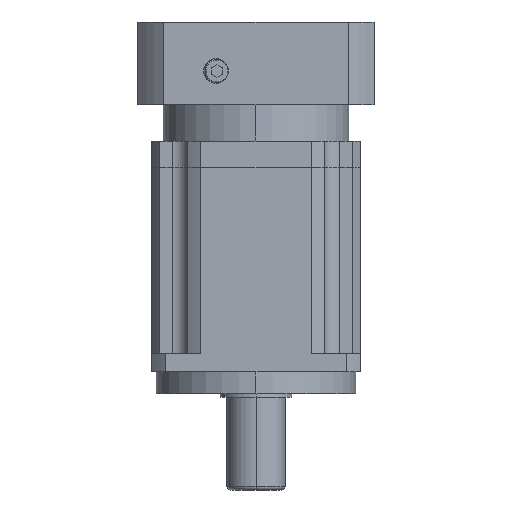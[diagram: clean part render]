
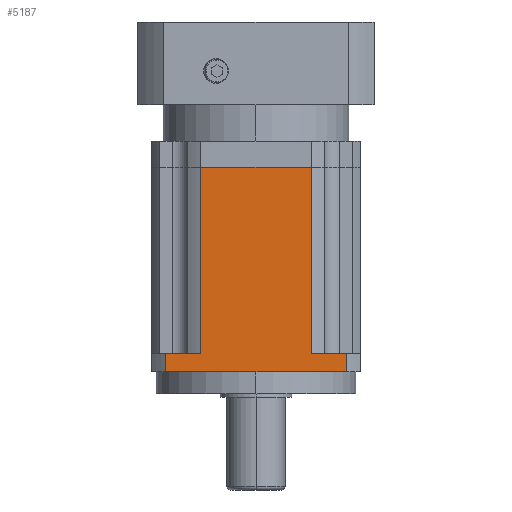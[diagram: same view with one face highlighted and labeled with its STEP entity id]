
A CAD part, left-side view. The second image highlights one B-rep face of the part: STEP entity #5187.
In plain terms, the highlighted planar face has unit normal (-1, 0, 0).
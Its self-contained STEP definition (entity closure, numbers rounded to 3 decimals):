
#65 = LINE ( 'NONE', #3188, #7861 ) ;
#213 = VECTOR ( 'NONE', #2178, 1000. ) ;
#348 = VERTEX_POINT ( 'NONE', #7490 ) ;
#956 = CARTESIAN_POINT ( 'NONE',  ( -57.5, 0., 22. ) ) ;
#1038 = CARTESIAN_POINT ( 'NONE',  ( -57.5, -49.697, 22. ) ) ;
#1093 = CARTESIAN_POINT ( 'NONE',  ( -57.5, 30.311, 124.5 ) ) ;
#1154 = PLANE ( 'NONE',  #1821 ) ;
#1203 = EDGE_CURVE ( 'NONE', #7192, #1212, #5909, .T. ) ;
#1212 = VERTEX_POINT ( 'NONE', #4473 ) ;
#1366 = CARTESIAN_POINT ( 'NONE',  ( -57.5, 0., 124.5 ) ) ;
#1565 = VERTEX_POINT ( 'NONE', #1093 ) ;
#1793 = CARTESIAN_POINT ( 'NONE',  ( -57.5, -30.311, 22. ) ) ;
#1821 = AXIS2_PLACEMENT_3D ( 'NONE', #5017, #9734, #1935 ) ;
#1847 = VECTOR ( 'NONE', #5251, 1000. ) ;
#1935 = DIRECTION ( 'NONE',  ( 0., 0., 1. ) ) ;
#2101 = LINE ( 'NONE', #7617, #1847 ) ;
#2134 = VECTOR ( 'NONE', #2297, 1000. ) ;
#2178 = DIRECTION ( 'NONE',  ( 0., 0., -1. ) ) ;
#2199 = VECTOR ( 'NONE', #8772, 1000. ) ;
#2297 = DIRECTION ( 'NONE',  ( 0., 0., -1. ) ) ;
#2549 = CARTESIAN_POINT ( 'NONE',  ( -57.5, 0., 22. ) ) ;
#2724 = EDGE_CURVE ( 'NONE', #8901, #4520, #65, .T. ) ;
#3027 = ORIENTED_EDGE ( 'NONE', *, *, #9559, .F. ) ;
#3188 = CARTESIAN_POINT ( 'NONE',  ( -57.5, -30.311, 124.501 ) ) ;
#3246 = EDGE_LOOP ( 'NONE', ( #4891, #6795, #8500, #7992, #9937, #3027, #6818, #3964 ) ) ;
#3459 = VECTOR ( 'NONE', #9584, 1000. ) ;
#3736 = CARTESIAN_POINT ( 'NONE',  ( -57.5, -30.311, 124.5 ) ) ;
#3964 = ORIENTED_EDGE ( 'NONE', *, *, #2724, .F. ) ;
#4255 = LINE ( 'NONE', #956, #2199 ) ;
#4392 = VECTOR ( 'NONE', #6063, 1000. ) ;
#4473 = CARTESIAN_POINT ( 'NONE',  ( -57.5, 49.697, 12. ) ) ;
#4490 = EDGE_CURVE ( 'NONE', #9176, #4520, #8632, .T. ) ;
#4520 = VERTEX_POINT ( 'NONE', #1793 ) ;
#4891 = ORIENTED_EDGE ( 'NONE', *, *, #7897, .T. ) ;
#5017 = CARTESIAN_POINT ( 'NONE',  ( -57.5, 0., 124.5 ) ) ;
#5187 = ADVANCED_FACE ( 'NONE', ( #9693 ), #1154, .T. ) ;
#5251 = DIRECTION ( 'NONE',  ( 0., 0., -1. ) ) ;
#5530 = DIRECTION ( 'NONE',  ( 0., 0., -1. ) ) ;
#5702 = EDGE_CURVE ( 'NONE', #9313, #1212, #9683, .T. ) ;
#5820 = CARTESIAN_POINT ( 'NONE',  ( -57.5, -49.697, 12. ) ) ;
#5909 = LINE ( 'NONE', #6020, #213 ) ;
#6020 = CARTESIAN_POINT ( 'NONE',  ( -57.5, 49.697, 124.5 ) ) ;
#6063 = DIRECTION ( 'NONE',  ( 0., 1., 0. ) ) ;
#6465 = LINE ( 'NONE', #1366, #4392 ) ;
#6795 = ORIENTED_EDGE ( 'NONE', *, *, #7476, .T. ) ;
#6818 = ORIENTED_EDGE ( 'NONE', *, *, #4490, .T. ) ;
#6947 = CARTESIAN_POINT ( 'NONE',  ( -57.5, -49.697, 124.5 ) ) ;
#7192 = VERTEX_POINT ( 'NONE', #8033 ) ;
#7200 = CARTESIAN_POINT ( 'NONE',  ( -57.5, -49.697, 12. ) ) ;
#7476 = EDGE_CURVE ( 'NONE', #1565, #348, #2101, .T. ) ;
#7490 = CARTESIAN_POINT ( 'NONE',  ( -57.5, 30.311, 22. ) ) ;
#7617 = CARTESIAN_POINT ( 'NONE',  ( -57.5, 30.311, 124.501 ) ) ;
#7861 = VECTOR ( 'NONE', #5530, 1000. ) ;
#7897 = EDGE_CURVE ( 'NONE', #8901, #1565, #6465, .T. ) ;
#7992 = ORIENTED_EDGE ( 'NONE', *, *, #1203, .T. ) ;
#8033 = CARTESIAN_POINT ( 'NONE',  ( -57.5, 49.697, 22. ) ) ;
#8500 = ORIENTED_EDGE ( 'NONE', *, *, #8621, .T. ) ;
#8621 = EDGE_CURVE ( 'NONE', #348, #7192, #4255, .T. ) ;
#8632 = LINE ( 'NONE', #2549, #3459 ) ;
#8772 = DIRECTION ( 'NONE',  ( 0., 1., 0. ) ) ;
#8901 = VERTEX_POINT ( 'NONE', #3736 ) ;
#9176 = VERTEX_POINT ( 'NONE', #1038 ) ;
#9202 = VECTOR ( 'NONE', #9543, 1000. ) ;
#9313 = VERTEX_POINT ( 'NONE', #5820 ) ;
#9543 = DIRECTION ( 'NONE',  ( 0., 1., 0. ) ) ;
#9559 = EDGE_CURVE ( 'NONE', #9176, #9313, #9710, .T. ) ;
#9584 = DIRECTION ( 'NONE',  ( 0., 1., 0. ) ) ;
#9683 = LINE ( 'NONE', #7200, #9202 ) ;
#9693 = FACE_OUTER_BOUND ( 'NONE', #3246, .T. ) ;
#9710 = LINE ( 'NONE', #6947, #2134 ) ;
#9734 = DIRECTION ( 'NONE',  ( -1., 0., 0. ) ) ;
#9937 = ORIENTED_EDGE ( 'NONE', *, *, #5702, .F. ) ;
